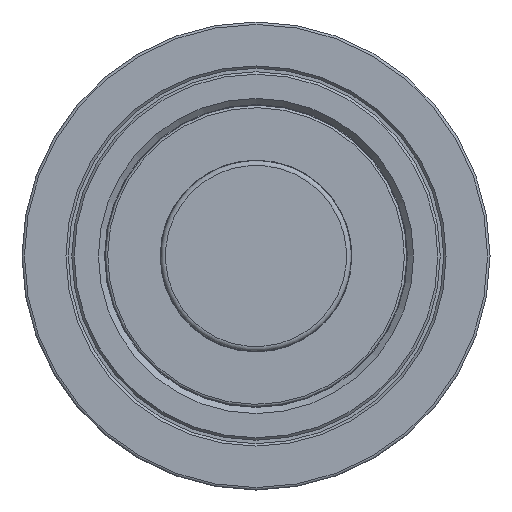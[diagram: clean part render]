
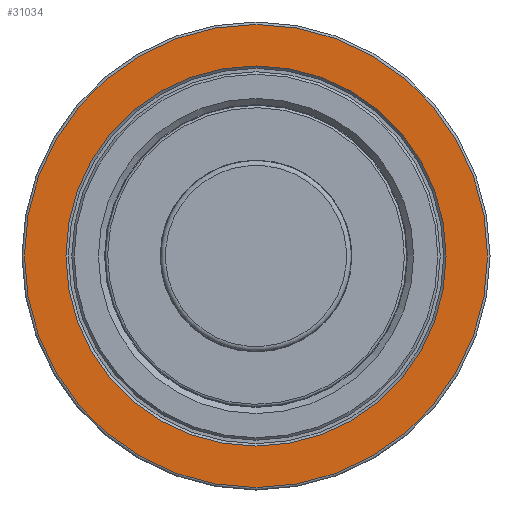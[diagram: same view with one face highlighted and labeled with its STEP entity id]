
A CAD part, front view. The second image highlights one B-rep face of the part: STEP entity #31034.
In plain terms, the highlighted planar face has unit normal (0, -1, 0).
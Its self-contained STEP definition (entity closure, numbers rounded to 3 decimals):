
#8763=FACE_BOUND('',#11555,.T.);
#9869=FACE_OUTER_BOUND('',#11554,.T.);
#11554=EDGE_LOOP('',(#26464));
#11555=EDGE_LOOP('',(#26465));
#12493=CIRCLE('',#32364,18.85);
#12494=CIRCLE('',#32366,15.475);
#14716=VERTEX_POINT('',#59319);
#14717=VERTEX_POINT('',#59323);
#18800=EDGE_CURVE('',#14716,#14716,#12493,.T.);
#18801=EDGE_CURVE('',#14717,#14717,#12494,.T.);
#26464=ORIENTED_EDGE('',*,*,#18800,.F.);
#26465=ORIENTED_EDGE('',*,*,#18801,.F.);
#29810=PLANE('',#32365);
#31034=ADVANCED_FACE('',(#9869,#8763),#29810,.T.);
#32364=AXIS2_PLACEMENT_3D('',#59321,#35453,#35454);
#32365=AXIS2_PLACEMENT_3D('',#59322,#35455,#35456);
#32366=AXIS2_PLACEMENT_3D('',#59324,#35457,#35458);
#35453=DIRECTION('center_axis',(0.,1.,0.));
#35454=DIRECTION('ref_axis',(-1.,0.,0.));
#35455=DIRECTION('center_axis',(0.,-1.,0.));
#35456=DIRECTION('ref_axis',(0.,0.,
-1.));
#35457=DIRECTION('center_axis',(0.,-1.,0.));
#35458=DIRECTION('ref_axis',(-1.,0.,0.));
#59319=CARTESIAN_POINT('',(0.,-22.81,-18.85));
#59321=CARTESIAN_POINT('Origin',(0.,-22.81,
0.));
#59322=CARTESIAN_POINT('Origin',(19.05,-22.81,0.));
#59323=CARTESIAN_POINT('',(15.475,-22.81,0.));
#59324=CARTESIAN_POINT('Origin',(0.,-22.81,
0.));
